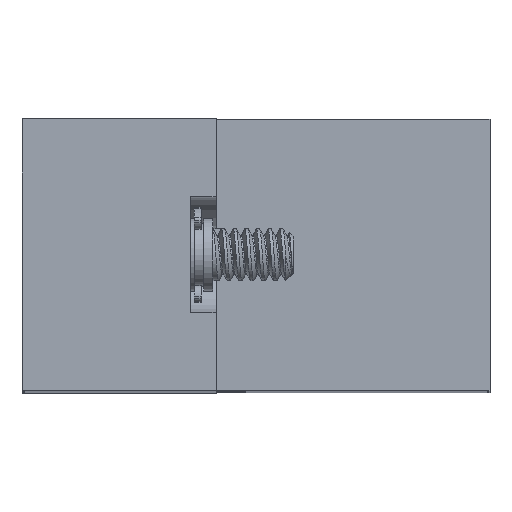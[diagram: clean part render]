
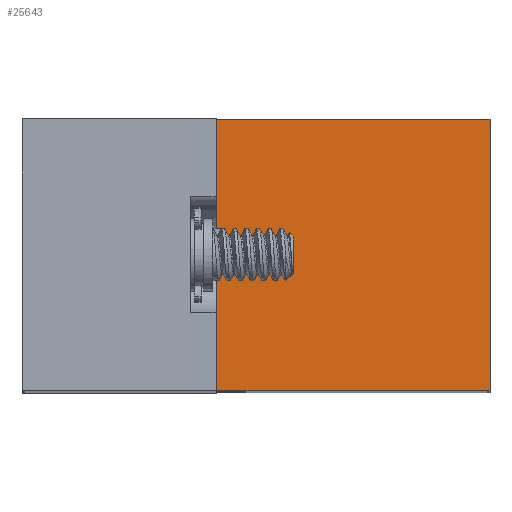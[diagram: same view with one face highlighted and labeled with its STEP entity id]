
A CAD part, top view. The second image highlights one B-rep face of the part: STEP entity #25643.
In plain terms, the highlighted planar face has unit normal (0, 0, 1).
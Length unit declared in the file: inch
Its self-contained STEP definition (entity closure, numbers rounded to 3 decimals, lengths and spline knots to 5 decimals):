
#2662=FACE_OUTER_BOUND('',#6511,.T.);
#6511=EDGE_LOOP('',(#21607,#21608,#21609,#21610));
#6851=LINE('',#34217,#8626);
#7652=LINE('',#38353,#9427);
#8308=LINE('',#42531,#10083);
#8329=LINE('',#43885,#10104);
#8626=VECTOR('',#27793,0.59);
#9427=VECTOR('',#29354,0.585);
#10083=VECTOR('',#30708,0.585);
#10104=VECTOR('',#32581,0.59);
#10558=VERTEX_POINT('',#34214);
#10559=VERTEX_POINT('',#34216);
#11402=VERTEX_POINT('',#38351);
#11971=VERTEX_POINT('',#42530);
#12888=EDGE_CURVE('',#10559,#10558,#6851,.T.);
#14087=EDGE_CURVE('',#10558,#11402,#7652,.T.);
#15076=EDGE_CURVE('',#10559,#11971,#8308,.T.);
#15501=EDGE_CURVE('',#11971,#11402,#8329,.T.);
#21607=ORIENTED_EDGE('',*,*,#14087,.T.);
#21608=ORIENTED_EDGE('',*,*,#15501,.F.);
#21609=ORIENTED_EDGE('',*,*,#15076,.F.);
#21610=ORIENTED_EDGE('',*,*,#12888,.T.);
#22767=PLANE('',#27403);
#25643=ADVANCED_FACE('',(#2662),#22767,.T.);
#27403=AXIS2_PLACEMENT_3D('',#43884,#32579,#32580);
#27793=DIRECTION('',(1.,0.,0.));
#29354=DIRECTION('',(0.,1.,0.));
#30708=DIRECTION('',(0.,1.,0.));
#32579=DIRECTION('center_axis',(0.,0.,1.));
#32580=DIRECTION('ref_axis',(1.,0.,0.));
#32581=DIRECTION('',(1.,0.,0.));
#34214=CARTESIAN_POINT('',(1.008,0.,2.957));
#34216=CARTESIAN_POINT('',(0.418,0.,2.957));
#34217=CARTESIAN_POINT('',(0.418,0.,2.957));
#38351=CARTESIAN_POINT('',(1.008,0.585,2.957));
#38353=CARTESIAN_POINT('',(1.008,0.,2.957));
#42530=CARTESIAN_POINT('',(0.418,0.585,2.957));
#42531=CARTESIAN_POINT('',(0.418,0.14625,2.957));
#43884=CARTESIAN_POINT('Origin',(0.418,0.,2.957));
#43885=CARTESIAN_POINT('',(0.418,0.585,2.957));
